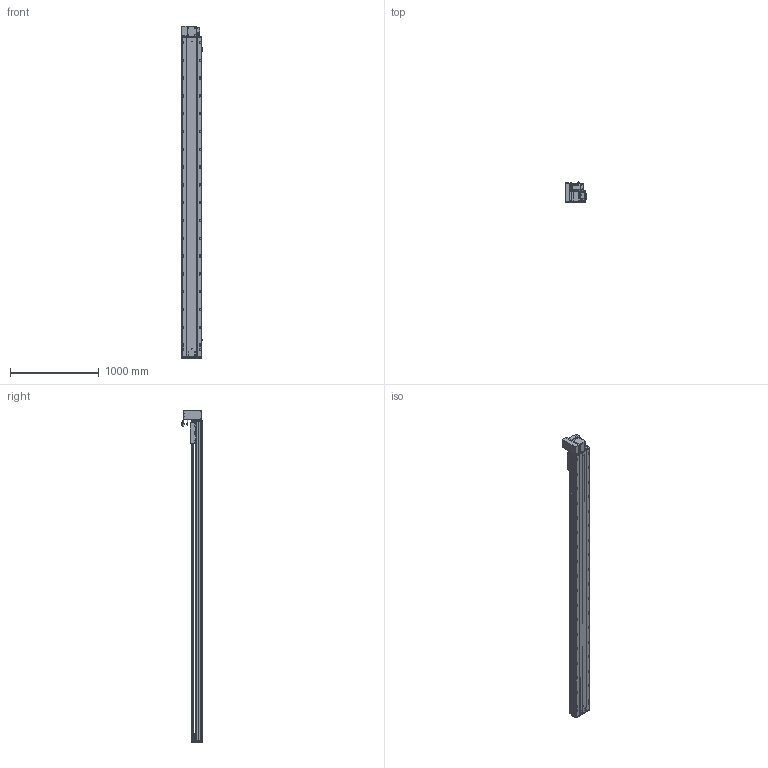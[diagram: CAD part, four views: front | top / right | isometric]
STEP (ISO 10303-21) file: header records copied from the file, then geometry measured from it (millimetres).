
FILE_DESCRIPTION (( 'STEP AP203' ), '1' );
FILE_NAME ('RY220-T-300-UL.SLDASM_3250.step', '2022-07-25T08:36:45', ( '' ), ( '' ), 'SwSTEP 2.0', 'SolidWorks 2016', '' );
FILE_SCHEMA (( 'CONFIG_CONTROL_DESIGN' ));
Length unit declared in the file: millimetre
Products named in the file (14): RY220-同步轮副支撑座6304×2; 滅袉蝶18-15; RY220圉猾敕々湍臏賑輸; 110A-T-肮祭謫釱傷裔; RY220-俋离672覜茼んえ; 覜茼ん672; RY220翋肮祭謫釱; RY220-T菁釱-300_3250; RY220-T-湍謫欶(鍼踢); RY220翋肮祭謫裔啣; RY220-T-蛌殏萇儂假蚾啣(750W); RY220-T-300-奻裔啣_3250; 怢湛750W_ECMA-CX0807ES; RY220-T-300-UL.SLDASM_3250
Assembly tree (18 placements, depth 2):
  RY220-T-300-UL.SLDASM_3250
    RY220-T菁釱-300_3250
    RY220翋肮祭謫釱
    覜茼ん672  x3
    RY220圉猾敕々湍臏賑輸
    RY220-T-300-奻裔啣_3250
    RY220-俋离672覜茼んえ
    滅袉蝶18-15  x3
    RY220翋肮祭謫裔啣  x2
    110A-T-肮祭謫釱傷裔
    怢湛750W_ECMA-CX0807ES
    RY220-T-湍謫欶(鍼踢)
    RY220-T-蛌殏萇儂假蚾啣(750W)
    RY220-同步轮副支撑座6304×2
Bounding box: 239.7 x 231.74 x 3730.5 mm (x, y, z)
Volume: 26817909.6 mm3; surface area: 8327128.1 mm2
Topology: 19 solids, 19 shells, 3088 faces, 8551 edges, 5344 vertices
Faces by surface type: cylinder 1540, plane 1069, cone 397, bspline 56, sphere 16, torus 10
Entity records: 103139 total; most frequent: CARTESIAN_POINT 29063, ORIENTED_EDGE 15290, DIRECTION 14820, EDGE_CURVE 7645, AXIS2_PLACEMENT_3D 5370, VERTEX_POINT 4968, VECTOR 4080, LINE 4080
